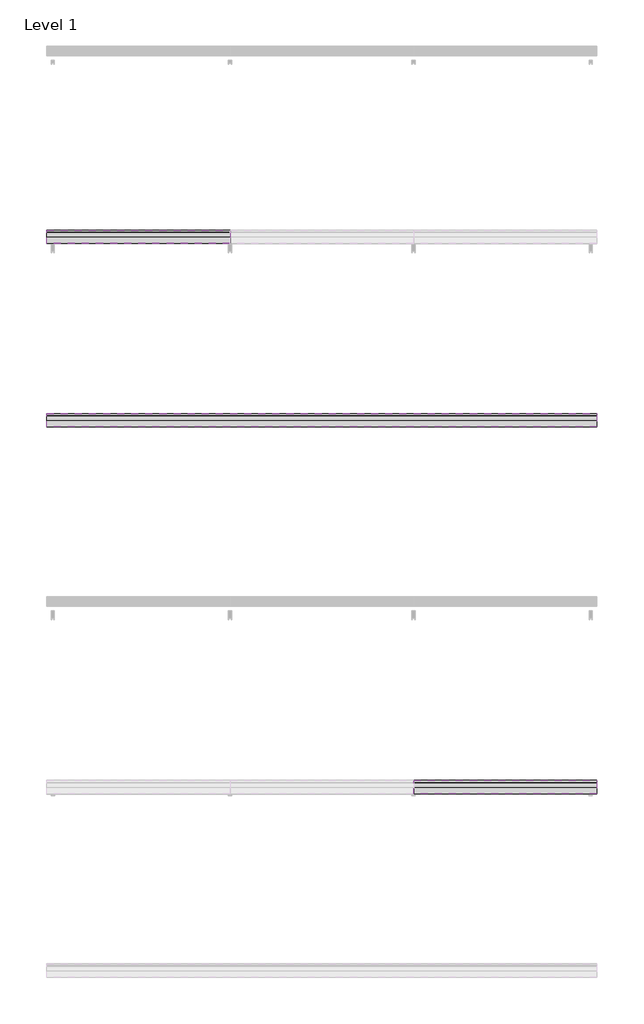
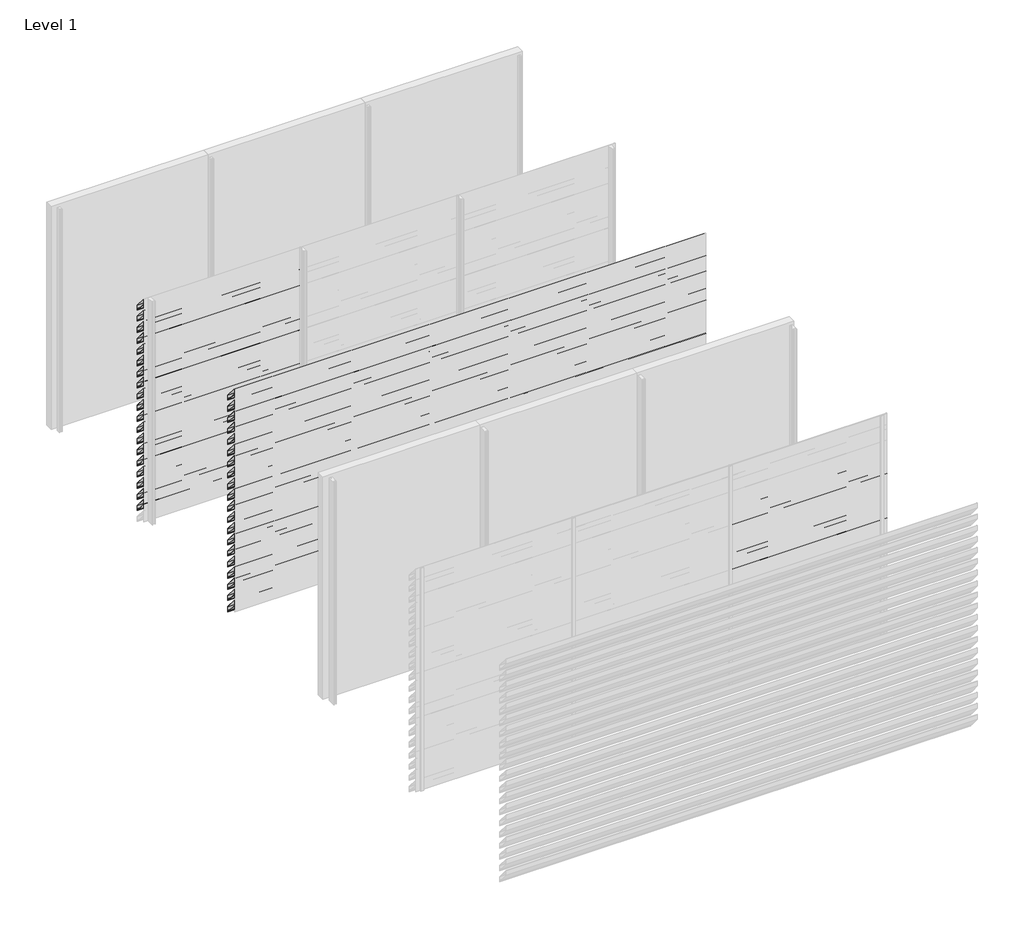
# One storey, part 11 of 16: 56 proxies.
"""IFC4 building model written with IfcOpenShell, lengths in millimetres."""

from ifc_helpers import new_model, si_unit, frame, origin, place, context, project, spatial, polyline, outline, extrude, element, save

model = new_model("IFC4")

# Units and contexts
model_context = context("Model", 3, world=origin())
ifc_project = project(units=[si_unit("LENGTHUNIT", "METRE", prefix="MILLI")], contexts=[model_context])

# Site, building, storey
site = spatial("IfcSite", under=ifc_project)
building = spatial("IfcBuilding", under=site)
storey = spatial("IfcBuildingStorey", under=building, Name="Level 1", Elevation=0.0)

# Proxies
placement = place(None, origin())
element("IfcBuildingElementProxy", 1, Name="Wall Sweeps", at=placement, inside=storey, context=model_context, shape_type="SweptSolid", body=[
    extrude(outline(polyline([(-17851.0, 2830.0), (-17851.0, 2761.0), (-17853.5, 2762.1657691), (-17853.5, 2775.7059843), (-17870.2498671, 2795.6676986), (-17880.9351065, 2795.6676986), (-17998.0, 2935.1802059), (-17998.0, 3000.0), (-17993.6469373, 3000.0), (-17851.0, 2830.0)]), holes=[polyline([(-17996.1, 2998.1), (-17996.1, 2935.8717493), (-17880.049122, 2797.5676986), (-17869.3638825, 2797.5676986), (-17852.9, 2777.9468074), (-17852.9, 2829.3084566), (-17994.5329219, 2998.1), (-17996.1, 2998.1)])]), frame((0.0, 0.0, 0.0), z_axis=(1.0, 0.0, 0.0), x_axis=(0.0, 1.0, 0.0)), (0.0, 0.0, 1.0), 2000.0),
])
element("IfcBuildingElementProxy", 2, Name="Wall Sweeps", at=placement, inside=storey, context=model_context, shape_type="SweptSolid", body=[
    extrude(outline(polyline([(-17851.0, 2680.0), (-17851.0, 2611.0), (-17853.5, 2612.1657691), (-17853.5, 2625.7059843), (-17870.2498671, 2645.6676986), (-17880.9351065, 2645.6676986), (-17998.0, 2785.1802059), (-17998.0, 2850.0), (-17993.6469373, 2850.0), (-17851.0, 2680.0)]), holes=[polyline([(-17996.1, 2848.1), (-17996.1, 2785.8717493), (-17880.049122, 2647.5676986), (-17869.3638825, 2647.5676986), (-17852.9, 2627.9468074), (-17852.9, 2679.3084566), (-17994.5329219, 2848.1), (-17996.1, 2848.1)])]), frame((0.0, 0.0, 0.0), z_axis=(1.0, 0.0, 0.0), x_axis=(0.0, 1.0, 0.0)), (0.0, 0.0, 1.0), 2000.0),
])
element("IfcBuildingElementProxy", 3, Name="Wall Sweeps", at=placement, inside=storey, context=model_context, shape_type="SweptSolid", body=[
    extrude(outline(polyline([(-17851.0, 2530.0), (-17851.0, 2461.0), (-17853.5, 2462.1657691), (-17853.5, 2475.7059843), (-17870.2498671, 2495.6676986), (-17880.9351065, 2495.6676986), (-17998.0, 2635.1802059), (-17998.0, 2700.0), (-17993.6469373, 2700.0), (-17851.0, 2530.0)]), holes=[polyline([(-17996.1, 2698.1), (-17996.1, 2635.8717493), (-17880.049122, 2497.5676986), (-17869.3638825, 2497.5676986), (-17852.9, 2477.9468074), (-17852.9, 2529.3084566), (-17994.5329219, 2698.1), (-17996.1, 2698.1)])]), frame((0.0, 0.0, 0.0), z_axis=(1.0, 0.0, 0.0), x_axis=(0.0, 1.0, 0.0)), (0.0, 0.0, 1.0), 2000.0),
])
element("IfcBuildingElementProxy", 4, Name="Wall Sweeps", at=placement, inside=storey, context=model_context, shape_type="SweptSolid", body=[
    extrude(outline(polyline([(-17851.0, 2380.0), (-17851.0, 2311.0), (-17853.5, 2312.1657691), (-17853.5, 2325.7059843), (-17870.2498671, 2345.6676986), (-17880.9351065, 2345.6676986), (-17998.0, 2485.1802059), (-17998.0, 2550.0), (-17993.6469373, 2550.0), (-17851.0, 2380.0)]), holes=[polyline([(-17996.1, 2548.1), (-17996.1, 2485.8717493), (-17880.049122, 2347.5676986), (-17869.3638825, 2347.5676986), (-17852.9, 2327.9468074), (-17852.9, 2379.3084566), (-17994.5329219, 2548.1), (-17996.1, 2548.1)])]), frame((0.0, 0.0, 0.0), z_axis=(1.0, 0.0, 0.0), x_axis=(0.0, 1.0, 0.0)), (0.0, 0.0, 1.0), 2000.0),
])
element("IfcBuildingElementProxy", 5, Name="Wall Sweeps", at=placement, inside=storey, context=model_context, shape_type="SweptSolid", body=[
    extrude(outline(polyline([(-17851.0, 2230.0), (-17851.0, 2161.0), (-17853.5, 2162.1657691), (-17853.5, 2175.7059843), (-17870.2498671, 2195.6676986), (-17880.9351065, 2195.6676986), (-17998.0, 2335.1802059), (-17998.0, 2400.0), (-17993.6469373, 2400.0), (-17851.0, 2230.0)]), holes=[polyline([(-17996.1, 2398.1), (-17996.1, 2335.8717493), (-17880.049122, 2197.5676986), (-17869.3638825, 2197.5676986), (-17852.9, 2177.9468074), (-17852.9, 2229.3084566), (-17994.5329219, 2398.1), (-17996.1, 2398.1)])]), frame((0.0, 0.0, 0.0), z_axis=(1.0, 0.0, 0.0), x_axis=(0.0, 1.0, 0.0)), (0.0, 0.0, 1.0), 2000.0),
])
element("IfcBuildingElementProxy", 6, Name="Wall Sweeps", at=placement, inside=storey, context=model_context, shape_type="SweptSolid", body=[
    extrude(outline(polyline([(-17851.0, 2080.0), (-17851.0, 2011.0), (-17853.5, 2012.1657691), (-17853.5, 2025.7059843), (-17870.2498671, 2045.6676986), (-17880.9351065, 2045.6676986), (-17998.0, 2185.1802059), (-17998.0, 2250.0), (-17993.6469373, 2250.0), (-17851.0, 2080.0)]), holes=[polyline([(-17996.1, 2248.1), (-17996.1, 2185.8717493), (-17880.049122, 2047.5676986), (-17869.3638825, 2047.5676986), (-17852.9, 2027.9468074), (-17852.9, 2079.3084566), (-17994.5329219, 2248.1), (-17996.1, 2248.1)])]), frame((0.0, 0.0, 0.0), z_axis=(1.0, 0.0, 0.0), x_axis=(0.0, 1.0, 0.0)), (0.0, 0.0, 1.0), 2000.0),
])
element("IfcBuildingElementProxy", 7, Name="Wall Sweeps", at=placement, inside=storey, context=model_context, shape_type="SweptSolid", body=[
    extrude(outline(polyline([(-17851.0, 1930.0), (-17851.0, 1861.0), (-17853.5, 1862.1657691), (-17853.5, 1875.7059843), (-17870.2498671, 1895.6676986), (-17880.9351065, 1895.6676986), (-17998.0, 2035.1802059), (-17998.0, 2100.0), (-17993.6469373, 2100.0), (-17851.0, 1930.0)]), holes=[polyline([(-17996.1, 2098.1), (-17996.1, 2035.8717493), (-17880.049122, 1897.5676986), (-17869.3638825, 1897.5676986), (-17852.9, 1877.9468074), (-17852.9, 1929.3084566), (-17994.5329219, 2098.1), (-17996.1, 2098.1)])]), frame((0.0, 0.0, 0.0), z_axis=(1.0, 0.0, 0.0), x_axis=(0.0, 1.0, 0.0)), (0.0, 0.0, 1.0), 2000.0),
])
element("IfcBuildingElementProxy", 8, Name="Wall Sweeps", at=placement, inside=storey, context=model_context, shape_type="SweptSolid", body=[
    extrude(outline(polyline([(-17851.0, 1780.0), (-17851.0, 1711.0), (-17853.5, 1712.1657691), (-17853.5, 1725.7059843), (-17870.2498671, 1745.6676986), (-17880.9351065, 1745.6676986), (-17998.0, 1885.1802059), (-17998.0, 1950.0), (-17993.6469373, 1950.0), (-17851.0, 1780.0)]), holes=[polyline([(-17996.1, 1948.1), (-17996.1, 1885.8717493), (-17880.049122, 1747.5676986), (-17869.3638825, 1747.5676986), (-17852.9, 1727.9468074), (-17852.9, 1779.3084566), (-17994.5329219, 1948.1), (-17996.1, 1948.1)])]), frame((0.0, 0.0, 0.0), z_axis=(1.0, 0.0, 0.0), x_axis=(0.0, 1.0, 0.0)), (0.0, 0.0, 1.0), 2000.0),
])
element("IfcBuildingElementProxy", 9, Name="Wall Sweeps", at=placement, inside=storey, context=model_context, shape_type="SweptSolid", body=[
    extrude(outline(polyline([(-17851.0, 1630.0), (-17851.0, 1561.0), (-17853.5, 1562.1657691), (-17853.5, 1575.7059843), (-17870.2498671, 1595.6676986), (-17880.9351065, 1595.6676986), (-17998.0, 1735.1802059), (-17998.0, 1800.0), (-17993.6469373, 1800.0), (-17851.0, 1630.0)]), holes=[polyline([(-17996.1, 1798.1), (-17996.1, 1735.8717493), (-17880.049122, 1597.5676986), (-17869.3638825, 1597.5676986), (-17852.9, 1577.9468074), (-17852.9, 1629.3084566), (-17994.5329219, 1798.1), (-17996.1, 1798.1)])]), frame((0.0, 0.0, 0.0), z_axis=(1.0, 0.0, 0.0), x_axis=(0.0, 1.0, 0.0)), (0.0, 0.0, 1.0), 2000.0),
])
element("IfcBuildingElementProxy", 10, Name="Wall Sweeps", at=placement, inside=storey, context=model_context, shape_type="SweptSolid", body=[
    extrude(outline(polyline([(-17851.0, 1480.0), (-17851.0, 1411.0), (-17853.5, 1412.1657691), (-17853.5, 1425.7059843), (-17870.2498671, 1445.6676986), (-17880.9351065, 1445.6676986), (-17998.0, 1585.1802059), (-17998.0, 1650.0), (-17993.6469373, 1650.0), (-17851.0, 1480.0)]), holes=[polyline([(-17996.1, 1648.1), (-17996.1, 1585.8717493), (-17880.049122, 1447.5676986), (-17869.3638825, 1447.5676986), (-17852.9, 1427.9468074), (-17852.9, 1479.3084566), (-17994.5329219, 1648.1), (-17996.1, 1648.1)])]), frame((0.0, 0.0, 0.0), z_axis=(1.0, 0.0, 0.0), x_axis=(0.0, 1.0, 0.0)), (0.0, 0.0, 1.0), 2000.0),
])
element("IfcBuildingElementProxy", 11, Name="Wall Sweeps", at=placement, inside=storey, context=model_context, shape_type="SweptSolid", body=[
    extrude(outline(polyline([(-17851.0, 1330.0), (-17851.0, 1261.0), (-17853.5, 1262.1657691), (-17853.5, 1275.7059843), (-17870.2498671, 1295.6676986), (-17880.9351065, 1295.6676986), (-17998.0, 1435.1802059), (-17998.0, 1500.0), (-17993.6469373, 1500.0), (-17851.0, 1330.0)]), holes=[polyline([(-17996.1, 1498.1), (-17996.1, 1435.8717493), (-17880.049122, 1297.5676986), (-17869.3638825, 1297.5676986), (-17852.9, 1277.9468074), (-17852.9, 1329.3084566), (-17994.5329219, 1498.1), (-17996.1, 1498.1)])]), frame((0.0, 0.0, 0.0), z_axis=(1.0, 0.0, 0.0), x_axis=(0.0, 1.0, 0.0)), (0.0, 0.0, 1.0), 2000.0),
])
element("IfcBuildingElementProxy", 12, Name="Wall Sweeps", at=placement, inside=storey, context=model_context, shape_type="SweptSolid", body=[
    extrude(outline(polyline([(-17851.0, 1180.0), (-17851.0, 1111.0), (-17853.5, 1112.1657691), (-17853.5, 1125.7059843), (-17870.2498671, 1145.6676986), (-17880.9351065, 1145.6676986), (-17998.0, 1285.1802059), (-17998.0, 1350.0), (-17993.6469373, 1350.0), (-17851.0, 1180.0)]), holes=[polyline([(-17996.1, 1348.1), (-17996.1, 1285.8717493), (-17880.049122, 1147.5676986), (-17869.3638825, 1147.5676986), (-17852.9, 1127.9468074), (-17852.9, 1179.3084566), (-17994.5329219, 1348.1), (-17996.1, 1348.1)])]), frame((0.0, 0.0, 0.0), z_axis=(1.0, 0.0, 0.0), x_axis=(0.0, 1.0, 0.0)), (0.0, 0.0, 1.0), 2000.0),
])
element("IfcBuildingElementProxy", 13, Name="Wall Sweeps", at=placement, inside=storey, context=model_context, shape_type="SweptSolid", body=[
    extrude(outline(polyline([(-17851.0, 1030.0), (-17851.0, 961.0), (-17853.5, 962.1657691), (-17853.5, 975.7059843), (-17870.2498671, 995.6676986), (-17880.9351065, 995.6676986), (-17998.0, 1135.1802059), (-17998.0, 1200.0), (-17993.6469373, 1200.0), (-17851.0, 1030.0)]), holes=[polyline([(-17996.1, 1198.1), (-17996.1, 1135.8717493), (-17880.049122, 997.5676986), (-17869.3638825, 997.5676986), (-17852.9, 977.9468074), (-17852.9, 1029.3084566), (-17994.5329219, 1198.1), (-17996.1, 1198.1)])]), frame((0.0, 0.0, 0.0), z_axis=(1.0, 0.0, 0.0), x_axis=(0.0, 1.0, 0.0)), (0.0, 0.0, 1.0), 2000.0),
])
element("IfcBuildingElementProxy", 14, Name="Wall Sweeps", at=placement, inside=storey, context=model_context, shape_type="SweptSolid", body=[
    extrude(outline(polyline([(-17851.0, 880.0), (-17851.0, 811.0), (-17853.5, 812.1657691), (-17853.5, 825.7059843), (-17870.2498671, 845.6676986), (-17880.9351065, 845.6676986), (-17998.0, 985.1802059), (-17998.0, 1050.0), (-17993.6469373, 1050.0), (-17851.0, 880.0)]), holes=[polyline([(-17996.1, 1048.1), (-17996.1, 985.8717493), (-17880.049122, 847.5676986), (-17869.3638825, 847.5676986), (-17852.9, 827.9468074), (-17852.9, 879.3084566), (-17994.5329219, 1048.1), (-17996.1, 1048.1)])]), frame((0.0, 0.0, 0.0), z_axis=(1.0, 0.0, 0.0), x_axis=(0.0, 1.0, 0.0)), (0.0, 0.0, 1.0), 2000.0),
])
element("IfcBuildingElementProxy", 15, Name="Wall Sweeps", at=placement, inside=storey, context=model_context, shape_type="SweptSolid", body=[
    extrude(outline(polyline([(-17851.0, 730.0), (-17851.0, 661.0), (-17853.5, 662.1657691), (-17853.5, 675.7059843), (-17870.2498671, 695.6676986), (-17880.9351065, 695.6676986), (-17998.0, 835.1802059), (-17998.0, 900.0), (-17993.6469373, 900.0), (-17851.0, 730.0)]), holes=[polyline([(-17996.1, 898.1), (-17996.1, 835.8717493), (-17880.049122, 697.5676986), (-17869.3638825, 697.5676986), (-17852.9, 677.9468074), (-17852.9, 729.3084566), (-17994.5329219, 898.1), (-17996.1, 898.1)])]), frame((0.0, 0.0, 0.0), z_axis=(1.0, 0.0, 0.0), x_axis=(0.0, 1.0, 0.0)), (0.0, 0.0, 1.0), 2000.0),
])
element("IfcBuildingElementProxy", 16, Name="Wall Sweeps", at=placement, inside=storey, context=model_context, shape_type="SweptSolid", body=[
    extrude(outline(polyline([(-17851.0, 580.0), (-17851.0, 511.0), (-17853.5, 512.1657691), (-17853.5, 525.7059843), (-17870.2498671, 545.6676986), (-17880.9351065, 545.6676986), (-17998.0, 685.1802059), (-17998.0, 750.0), (-17993.6469373, 750.0), (-17851.0, 580.0)]), holes=[polyline([(-17996.1, 748.1), (-17996.1, 685.8717493), (-17880.049122, 547.5676986), (-17869.3638825, 547.5676986), (-17852.9, 527.9468074), (-17852.9, 579.3084566), (-17994.5329219, 748.1), (-17996.1, 748.1)])]), frame((0.0, 0.0, 0.0), z_axis=(1.0, 0.0, 0.0), x_axis=(0.0, 1.0, 0.0)), (0.0, 0.0, 1.0), 2000.0),
])
element("IfcBuildingElementProxy", 17, Name="Wall Sweeps", at=placement, inside=storey, context=model_context, shape_type="SweptSolid", body=[
    extrude(outline(polyline([(-17851.0, 430.0), (-17851.0, 361.0), (-17853.5, 362.1657691), (-17853.5, 375.7059843), (-17870.2498671, 395.6676986), (-17880.9351065, 395.6676986), (-17998.0, 535.1802059), (-17998.0, 600.0), (-17993.6469373, 600.0), (-17851.0, 430.0)]), holes=[polyline([(-17996.1, 598.1), (-17996.1, 535.8717493), (-17880.049122, 397.5676986), (-17869.3638825, 397.5676986), (-17852.9, 377.9468074), (-17852.9, 429.3084566), (-17994.5329219, 598.1), (-17996.1, 598.1)])]), frame((0.0, 0.0, 0.0), z_axis=(1.0, 0.0, 0.0), x_axis=(0.0, 1.0, 0.0)), (0.0, 0.0, 1.0), 2000.0),
])
element("IfcBuildingElementProxy", 18, Name="Wall Sweeps", at=placement, inside=storey, context=model_context, shape_type="SweptSolid", body=[
    extrude(outline(polyline([(-17851.0, 280.0), (-17851.0, 211.0), (-17853.5, 212.1657691), (-17853.5, 225.7059843), (-17870.2498671, 245.6676986), (-17880.9351065, 245.6676986), (-17998.0, 385.1802059), (-17998.0, 450.0), (-17993.6469373, 450.0), (-17851.0, 280.0)]), holes=[polyline([(-17996.1, 448.1), (-17996.1, 385.8717493), (-17880.049122, 247.5676986), (-17869.3638825, 247.5676986), (-17852.9, 227.9468074), (-17852.9, 279.3084566), (-17994.5329219, 448.1), (-17996.1, 448.1)])]), frame((0.0, 0.0, 0.0), z_axis=(1.0, 0.0, 0.0), x_axis=(0.0, 1.0, 0.0)), (0.0, 0.0, 1.0), 2000.0),
])
element("IfcBuildingElementProxy", 19, Name="Wall Sweeps", at=placement, inside=storey, context=model_context, shape_type="SweptSolid", body=[
    extrude(outline(polyline([(-17851.0, 130.0), (-17851.0, 61.0), (-17853.5, 62.1657691), (-17853.5, 75.7059843), (-17870.2498671, 95.6676986), (-17880.9351065, 95.6676986), (-17998.0, 235.1802059), (-17998.0, 300.0), (-17993.6469373, 300.0), (-17851.0, 130.0)]), holes=[polyline([(-17996.1, 298.1), (-17996.1, 235.8717493), (-17880.049122, 97.5676986), (-17869.3638825, 97.5676986), (-17852.9, 77.9468074), (-17852.9, 129.3084566), (-17994.5329219, 298.1), (-17996.1, 298.1)])]), frame((0.0, 0.0, 0.0), z_axis=(1.0, 0.0, 0.0), x_axis=(0.0, 1.0, 0.0)), (0.0, 0.0, 1.0), 2000.0),
])
element("IfcBuildingElementProxy", 20, Name="Wall Sweeps", at=placement, inside=storey, context=model_context, shape_type="SweptSolid", body=[
    extrude(outline(polyline([(-19851.0, 2830.0), (-19851.0, 2761.0), (-19853.5, 2762.1657691), (-19853.5, 2775.7059843), (-19870.2498671, 2795.6676986), (-19880.9351065, 2795.6676986), (-19998.0, 2935.1802059), (-19998.0, 3000.0), (-19993.6469373, 3000.0), (-19851.0, 2830.0)]), holes=[polyline([(-19996.1, 2998.1), (-19996.1, 2935.8717493), (-19880.049122, 2797.5676986), (-19869.3638825, 2797.5676986), (-19852.9, 2777.9468074), (-19852.9, 2829.3084566), (-19994.5329219, 2998.1), (-19996.1, 2998.1)])]), frame((0.0, 0.0, 0.0), z_axis=(1.0, 0.0, 0.0), x_axis=(0.0, 1.0, 0.0)), (0.0, 0.0, 1.0), 6000.0),
])
element("IfcBuildingElementProxy", 21, Name="Wall Sweeps", at=placement, inside=storey, context=model_context, shape_type="SweptSolid", body=[
    extrude(outline(polyline([(-19851.0, 2680.0), (-19851.0, 2611.0), (-19853.5, 2612.1657691), (-19853.5, 2625.7059843), (-19870.2498671, 2645.6676986), (-19880.9351065, 2645.6676986), (-19998.0, 2785.1802059), (-19998.0, 2850.0), (-19993.6469373, 2850.0), (-19851.0, 2680.0)]), holes=[polyline([(-19996.1, 2848.1), (-19996.1, 2785.8717493), (-19880.049122, 2647.5676986), (-19869.3638825, 2647.5676986), (-19852.9, 2627.9468074), (-19852.9, 2679.3084566), (-19994.5329219, 2848.1), (-19996.1, 2848.1)])]), frame((0.0, 0.0, 0.0), z_axis=(1.0, 0.0, 0.0), x_axis=(0.0, 1.0, 0.0)), (0.0, 0.0, 1.0), 6000.0),
])
element("IfcBuildingElementProxy", 22, Name="Wall Sweeps", at=placement, inside=storey, context=model_context, shape_type="SweptSolid", body=[
    extrude(outline(polyline([(-19851.0, 2530.0), (-19851.0, 2461.0), (-19853.5, 2462.1657691), (-19853.5, 2475.7059843), (-19870.2498671, 2495.6676986), (-19880.9351065, 2495.6676986), (-19998.0, 2635.1802059), (-19998.0, 2700.0), (-19993.6469373, 2700.0), (-19851.0, 2530.0)]), holes=[polyline([(-19996.1, 2698.1), (-19996.1, 2635.8717493), (-19880.049122, 2497.5676986), (-19869.3638825, 2497.5676986), (-19852.9, 2477.9468074), (-19852.9, 2529.3084566), (-19994.5329219, 2698.1), (-19996.1, 2698.1)])]), frame((0.0, 0.0, 0.0), z_axis=(1.0, 0.0, 0.0), x_axis=(0.0, 1.0, 0.0)), (0.0, 0.0, 1.0), 6000.0),
])
element("IfcBuildingElementProxy", 23, Name="Wall Sweeps", at=placement, inside=storey, context=model_context, shape_type="SweptSolid", body=[
    extrude(outline(polyline([(-19851.0, 2380.0), (-19851.0, 2311.0), (-19853.5, 2312.1657691), (-19853.5, 2325.7059843), (-19870.2498671, 2345.6676986), (-19880.9351065, 2345.6676986), (-19998.0, 2485.1802059), (-19998.0, 2550.0), (-19993.6469373, 2550.0), (-19851.0, 2380.0)]), holes=[polyline([(-19996.1, 2548.1), (-19996.1, 2485.8717493), (-19880.049122, 2347.5676986), (-19869.3638825, 2347.5676986), (-19852.9, 2327.9468074), (-19852.9, 2379.3084566), (-19994.5329219, 2548.1), (-19996.1, 2548.1)])]), frame((0.0, 0.0, 0.0), z_axis=(1.0, 0.0, 0.0), x_axis=(0.0, 1.0, 0.0)), (0.0, 0.0, 1.0), 6000.0),
])
element("IfcBuildingElementProxy", 24, Name="Wall Sweeps", at=placement, inside=storey, context=model_context, shape_type="SweptSolid", body=[
    extrude(outline(polyline([(-19851.0, 2230.0), (-19851.0, 2161.0), (-19853.5, 2162.1657691), (-19853.5, 2175.7059843), (-19870.2498671, 2195.6676986), (-19880.9351065, 2195.6676986), (-19998.0, 2335.1802059), (-19998.0, 2400.0), (-19993.6469373, 2400.0), (-19851.0, 2230.0)]), holes=[polyline([(-19996.1, 2398.1), (-19996.1, 2335.8717493), (-19880.049122, 2197.5676986), (-19869.3638825, 2197.5676986), (-19852.9, 2177.9468074), (-19852.9, 2229.3084566), (-19994.5329219, 2398.1), (-19996.1, 2398.1)])]), frame((0.0, 0.0, 0.0), z_axis=(1.0, 0.0, 0.0), x_axis=(0.0, 1.0, 0.0)), (0.0, 0.0, 1.0), 6000.0),
])
element("IfcBuildingElementProxy", 25, Name="Wall Sweeps", at=placement, inside=storey, context=model_context, shape_type="SweptSolid", body=[
    extrude(outline(polyline([(-19851.0, 2080.0), (-19851.0, 2011.0), (-19853.5, 2012.1657691), (-19853.5, 2025.7059843), (-19870.2498671, 2045.6676986), (-19880.9351065, 2045.6676986), (-19998.0, 2185.1802059), (-19998.0, 2250.0), (-19993.6469373, 2250.0), (-19851.0, 2080.0)]), holes=[polyline([(-19996.1, 2248.1), (-19996.1, 2185.8717493), (-19880.049122, 2047.5676986), (-19869.3638825, 2047.5676986), (-19852.9, 2027.9468074), (-19852.9, 2079.3084566), (-19994.5329219, 2248.1), (-19996.1, 2248.1)])]), frame((0.0, 0.0, 0.0), z_axis=(1.0, 0.0, 0.0), x_axis=(0.0, 1.0, 0.0)), (0.0, 0.0, 1.0), 6000.0),
])
element("IfcBuildingElementProxy", 26, Name="Wall Sweeps", at=placement, inside=storey, context=model_context, shape_type="SweptSolid", body=[
    extrude(outline(polyline([(-19851.0, 1930.0), (-19851.0, 1861.0), (-19853.5, 1862.1657691), (-19853.5, 1875.7059843), (-19870.2498671, 1895.6676986), (-19880.9351065, 1895.6676986), (-19998.0, 2035.1802059), (-19998.0, 2100.0), (-19993.6469373, 2100.0), (-19851.0, 1930.0)]), holes=[polyline([(-19996.1, 2098.1), (-19996.1, 2035.8717493), (-19880.049122, 1897.5676986), (-19869.3638825, 1897.5676986), (-19852.9, 1877.9468074), (-19852.9, 1929.3084566), (-19994.5329219, 2098.1), (-19996.1, 2098.1)])]), frame((0.0, 0.0, 0.0), z_axis=(1.0, 0.0, 0.0), x_axis=(0.0, 1.0, 0.0)), (0.0, 0.0, 1.0), 6000.0),
])
element("IfcBuildingElementProxy", 27, Name="Wall Sweeps", at=placement, inside=storey, context=model_context, shape_type="SweptSolid", body=[
    extrude(outline(polyline([(-19851.0, 1780.0), (-19851.0, 1711.0), (-19853.5, 1712.1657691), (-19853.5, 1725.7059843), (-19870.2498671, 1745.6676986), (-19880.9351065, 1745.6676986), (-19998.0, 1885.1802059), (-19998.0, 1950.0), (-19993.6469373, 1950.0), (-19851.0, 1780.0)]), holes=[polyline([(-19996.1, 1948.1), (-19996.1, 1885.8717493), (-19880.049122, 1747.5676986), (-19869.3638825, 1747.5676986), (-19852.9, 1727.9468074), (-19852.9, 1779.3084566), (-19994.5329219, 1948.1), (-19996.1, 1948.1)])]), frame((0.0, 0.0, 0.0), z_axis=(1.0, 0.0, 0.0), x_axis=(0.0, 1.0, 0.0)), (0.0, 0.0, 1.0), 6000.0),
])
element("IfcBuildingElementProxy", 28, Name="Wall Sweeps", at=placement, inside=storey, context=model_context, shape_type="SweptSolid", body=[
    extrude(outline(polyline([(-19851.0, 1630.0), (-19851.0, 1561.0), (-19853.5, 1562.1657691), (-19853.5, 1575.7059843), (-19870.2498671, 1595.6676986), (-19880.9351065, 1595.6676986), (-19998.0, 1735.1802059), (-19998.0, 1800.0), (-19993.6469373, 1800.0), (-19851.0, 1630.0)]), holes=[polyline([(-19996.1, 1798.1), (-19996.1, 1735.8717493), (-19880.049122, 1597.5676986), (-19869.3638825, 1597.5676986), (-19852.9, 1577.9468074), (-19852.9, 1629.3084566), (-19994.5329219, 1798.1), (-19996.1, 1798.1)])]), frame((0.0, 0.0, 0.0), z_axis=(1.0, 0.0, 0.0), x_axis=(0.0, 1.0, 0.0)), (0.0, 0.0, 1.0), 6000.0),
])
element("IfcBuildingElementProxy", 29, Name="Wall Sweeps", at=placement, inside=storey, context=model_context, shape_type="SweptSolid", body=[
    extrude(outline(polyline([(-19851.0, 1480.0), (-19851.0, 1411.0), (-19853.5, 1412.1657691), (-19853.5, 1425.7059843), (-19870.2498671, 1445.6676986), (-19880.9351065, 1445.6676986), (-19998.0, 1585.1802059), (-19998.0, 1650.0), (-19993.6469373, 1650.0), (-19851.0, 1480.0)]), holes=[polyline([(-19996.1, 1648.1), (-19996.1, 1585.8717493), (-19880.049122, 1447.5676986), (-19869.3638825, 1447.5676986), (-19852.9, 1427.9468074), (-19852.9, 1479.3084566), (-19994.5329219, 1648.1), (-19996.1, 1648.1)])]), frame((0.0, 0.0, 0.0), z_axis=(1.0, 0.0, 0.0), x_axis=(0.0, 1.0, 0.0)), (0.0, 0.0, 1.0), 6000.0),
])
element("IfcBuildingElementProxy", 30, Name="Wall Sweeps", at=placement, inside=storey, context=model_context, shape_type="SweptSolid", body=[
    extrude(outline(polyline([(-19851.0, 1330.0), (-19851.0, 1261.0), (-19853.5, 1262.1657691), (-19853.5, 1275.7059843), (-19870.2498671, 1295.6676986), (-19880.9351065, 1295.6676986), (-19998.0, 1435.1802059), (-19998.0, 1500.0), (-19993.6469373, 1500.0), (-19851.0, 1330.0)]), holes=[polyline([(-19996.1, 1498.1), (-19996.1, 1435.8717493), (-19880.049122, 1297.5676986), (-19869.3638825, 1297.5676986), (-19852.9, 1277.9468074), (-19852.9, 1329.3084566), (-19994.5329219, 1498.1), (-19996.1, 1498.1)])]), frame((0.0, 0.0, 0.0), z_axis=(1.0, 0.0, 0.0), x_axis=(0.0, 1.0, 0.0)), (0.0, 0.0, 1.0), 6000.0),
])
element("IfcBuildingElementProxy", 31, Name="Wall Sweeps", at=placement, inside=storey, context=model_context, shape_type="SweptSolid", body=[
    extrude(outline(polyline([(-19851.0, 1180.0), (-19851.0, 1111.0), (-19853.5, 1112.1657691), (-19853.5, 1125.7059843), (-19870.2498671, 1145.6676986), (-19880.9351065, 1145.6676986), (-19998.0, 1285.1802059), (-19998.0, 1350.0), (-19993.6469373, 1350.0), (-19851.0, 1180.0)]), holes=[polyline([(-19996.1, 1348.1), (-19996.1, 1285.8717493), (-19880.049122, 1147.5676986), (-19869.3638825, 1147.5676986), (-19852.9, 1127.9468074), (-19852.9, 1179.3084566), (-19994.5329219, 1348.1), (-19996.1, 1348.1)])]), frame((0.0, 0.0, 0.0), z_axis=(1.0, 0.0, 0.0), x_axis=(0.0, 1.0, 0.0)), (0.0, 0.0, 1.0), 6000.0),
])
element("IfcBuildingElementProxy", 32, Name="Wall Sweeps", at=placement, inside=storey, context=model_context, shape_type="SweptSolid", body=[
    extrude(outline(polyline([(-19851.0, 1030.0), (-19851.0, 961.0), (-19853.5, 962.1657691), (-19853.5, 975.7059843), (-19870.2498671, 995.6676986), (-19880.9351065, 995.6676986), (-19998.0, 1135.1802059), (-19998.0, 1200.0), (-19993.6469373, 1200.0), (-19851.0, 1030.0)]), holes=[polyline([(-19996.1, 1198.1), (-19996.1, 1135.8717493), (-19880.049122, 997.5676986), (-19869.3638825, 997.5676986), (-19852.9, 977.9468074), (-19852.9, 1029.3084566), (-19994.5329219, 1198.1), (-19996.1, 1198.1)])]), frame((0.0, 0.0, 0.0), z_axis=(1.0, 0.0, 0.0), x_axis=(0.0, 1.0, 0.0)), (0.0, 0.0, 1.0), 6000.0),
])
element("IfcBuildingElementProxy", 33, Name="Wall Sweeps", at=placement, inside=storey, context=model_context, shape_type="SweptSolid", body=[
    extrude(outline(polyline([(-19851.0, 880.0), (-19851.0, 811.0), (-19853.5, 812.1657691), (-19853.5, 825.7059843), (-19870.2498671, 845.6676986), (-19880.9351065, 845.6676986), (-19998.0, 985.1802059), (-19998.0, 1050.0), (-19993.6469373, 1050.0), (-19851.0, 880.0)]), holes=[polyline([(-19996.1, 1048.1), (-19996.1, 985.8717493), (-19880.049122, 847.5676986), (-19869.3638825, 847.5676986), (-19852.9, 827.9468074), (-19852.9, 879.3084566), (-19994.5329219, 1048.1), (-19996.1, 1048.1)])]), frame((0.0, 0.0, 0.0), z_axis=(1.0, 0.0, 0.0), x_axis=(0.0, 1.0, 0.0)), (0.0, 0.0, 1.0), 6000.0),
])
element("IfcBuildingElementProxy", 34, Name="Wall Sweeps", at=placement, inside=storey, context=model_context, shape_type="SweptSolid", body=[
    extrude(outline(polyline([(-19851.0, 730.0), (-19851.0, 661.0), (-19853.5, 662.1657691), (-19853.5, 675.7059843), (-19870.2498671, 695.6676986), (-19880.9351065, 695.6676986), (-19998.0, 835.1802059), (-19998.0, 900.0), (-19993.6469373, 900.0), (-19851.0, 730.0)]), holes=[polyline([(-19996.1, 898.1), (-19996.1, 835.8717493), (-19880.049122, 697.5676986), (-19869.3638825, 697.5676986), (-19852.9, 677.9468074), (-19852.9, 729.3084566), (-19994.5329219, 898.1), (-19996.1, 898.1)])]), frame((0.0, 0.0, 0.0), z_axis=(1.0, 0.0, 0.0), x_axis=(0.0, 1.0, 0.0)), (0.0, 0.0, 1.0), 6000.0),
])
element("IfcBuildingElementProxy", 35, Name="Wall Sweeps", at=placement, inside=storey, context=model_context, shape_type="SweptSolid", body=[
    extrude(outline(polyline([(-19851.0, 580.0), (-19851.0, 511.0), (-19853.5, 512.1657691), (-19853.5, 525.7059843), (-19870.2498671, 545.6676986), (-19880.9351065, 545.6676986), (-19998.0, 685.1802059), (-19998.0, 750.0), (-19993.6469373, 750.0), (-19851.0, 580.0)]), holes=[polyline([(-19996.1, 748.1), (-19996.1, 685.8717493), (-19880.049122, 547.5676986), (-19869.3638825, 547.5676986), (-19852.9, 527.9468074), (-19852.9, 579.3084566), (-19994.5329219, 748.1), (-19996.1, 748.1)])]), frame((0.0, 0.0, 0.0), z_axis=(1.0, 0.0, 0.0), x_axis=(0.0, 1.0, 0.0)), (0.0, 0.0, 1.0), 6000.0),
])
element("IfcBuildingElementProxy", 36, Name="Wall Sweeps", at=placement, inside=storey, context=model_context, shape_type="SweptSolid", body=[
    extrude(outline(polyline([(-19851.0, 430.0), (-19851.0, 361.0), (-19853.5, 362.1657691), (-19853.5, 375.7059843), (-19870.2498671, 395.6676986), (-19880.9351065, 395.6676986), (-19998.0, 535.1802059), (-19998.0, 600.0), (-19993.6469373, 600.0), (-19851.0, 430.0)]), holes=[polyline([(-19996.1, 598.1), (-19996.1, 535.8717493), (-19880.049122, 397.5676986), (-19869.3638825, 397.5676986), (-19852.9, 377.9468074), (-19852.9, 429.3084566), (-19994.5329219, 598.1), (-19996.1, 598.1)])]), frame((0.0, 0.0, 0.0), z_axis=(1.0, 0.0, 0.0), x_axis=(0.0, 1.0, 0.0)), (0.0, 0.0, 1.0), 6000.0),
])
element("IfcBuildingElementProxy", 37, Name="Wall Sweeps", at=placement, inside=storey, context=model_context, shape_type="SweptSolid", body=[
    extrude(outline(polyline([(-19851.0, 280.0), (-19851.0, 211.0), (-19853.5, 212.1657691), (-19853.5, 225.7059843), (-19870.2498671, 245.6676986), (-19880.9351065, 245.6676986), (-19998.0, 385.1802059), (-19998.0, 450.0), (-19993.6469373, 450.0), (-19851.0, 280.0)]), holes=[polyline([(-19996.1, 448.1), (-19996.1, 385.8717493), (-19880.049122, 247.5676986), (-19869.3638825, 247.5676986), (-19852.9, 227.9468074), (-19852.9, 279.3084566), (-19994.5329219, 448.1), (-19996.1, 448.1)])]), frame((0.0, 0.0, 0.0), z_axis=(1.0, 0.0, 0.0), x_axis=(0.0, 1.0, 0.0)), (0.0, 0.0, 1.0), 6000.0),
])
element("IfcBuildingElementProxy", 38, Name="Wall Sweeps", at=placement, inside=storey, context=model_context, shape_type="SweptSolid", body=[
    extrude(outline(polyline([(-19851.0, 130.0), (-19851.0, 61.0), (-19853.5, 62.1657691), (-19853.5, 75.7059843), (-19870.2498671, 95.6676986), (-19880.9351065, 95.6676986), (-19998.0, 235.1802059), (-19998.0, 300.0), (-19993.6469373, 300.0), (-19851.0, 130.0)]), holes=[polyline([(-19996.1, 298.1), (-19996.1, 235.8717493), (-19880.049122, 97.5676986), (-19869.3638825, 97.5676986), (-19852.9, 77.9468074), (-19852.9, 129.3084566), (-19994.5329219, 298.1), (-19996.1, 298.1)])]), frame((0.0, 0.0, 0.0), z_axis=(1.0, 0.0, 0.0), x_axis=(0.0, 1.0, 0.0)), (0.0, 0.0, 1.0), 6000.0),
])
element("IfcBuildingElementProxy", 39, Name="Wall Sweeps", at=placement, inside=storey, context=model_context, shape_type="SweptSolid", body=[
    extrude(outline(polyline([(-19851.0, -20.0), (-19851.0, -89.0), (-19853.5, -87.8342309), (-19853.5, -74.2940157), (-19870.2498671, -54.3323014), (-19880.9351065, -54.3323014), (-19998.0, 85.1802059), (-19998.0, 150.0), (-19993.6469373, 150.0), (-19851.0, -20.0)]), holes=[polyline([(-19996.1, 148.1), (-19996.1, 85.8717493), (-19880.049122, -52.4323014), (-19869.3638825, -52.4323014), (-19852.9, -72.0531926), (-19852.9, -20.6915434), (-19994.5329219, 148.1), (-19996.1, 148.1)])]), frame((0.0, 0.0, 0.0), z_axis=(1.0, 0.0, 0.0), x_axis=(0.0, 1.0, 0.0)), (0.0, 0.0, 1.0), 6000.0),
])
element("IfcBuildingElementProxy", 40, Name="Wall Sweeps", at=placement, inside=storey, context=model_context, shape_type="SweptSolid", body=[
    extrude(outline(polyline([(-23851.0, 2380.0), (-23851.0, 2311.0), (-23853.5, 2312.1657691), (-23853.5, 2325.7059843), (-23870.2498671, 2345.6676986), (-23880.9351065, 2345.6676986), (-23998.0, 2485.1802059), (-23998.0, 2550.0), (-23993.6469373, 2550.0), (-23851.0, 2380.0)]), holes=[polyline([(-23996.1, 2548.1), (-23996.1, 2485.8717493), (-23880.049122, 2347.5676986), (-23869.3638825, 2347.5676986), (-23852.9, 2327.9468074), (-23852.9, 2379.3084566), (-23994.5329219, 2548.1), (-23996.1, 2548.1)])]), frame((4000.0, 0.0, 0.0), z_axis=(1.0, 0.0, 0.0), x_axis=(0.0, 1.0, 0.0)), (0.0, 0.0, 1.0), 2000.0),
])
element("IfcBuildingElementProxy", 41, Name="Wall Sweeps", at=placement, inside=storey, context=model_context, shape_type="SweptSolid", body=[
    extrude(outline(polyline([(-23851.0, 2230.0), (-23851.0, 2161.0), (-23853.5, 2162.1657691), (-23853.5, 2175.7059843), (-23870.2498671, 2195.6676986), (-23880.9351065, 2195.6676986), (-23998.0, 2335.1802059), (-23998.0, 2400.0), (-23993.6469373, 2400.0), (-23851.0, 2230.0)]), holes=[polyline([(-23996.1, 2398.1), (-23996.1, 2335.8717493), (-23880.049122, 2197.5676986), (-23869.3638825, 2197.5676986), (-23852.9, 2177.9468074), (-23852.9, 2229.3084566), (-23994.5329219, 2398.1), (-23996.1, 2398.1)])]), frame((4000.0, 0.0, 0.0), z_axis=(1.0, 0.0, 0.0), x_axis=(0.0, 1.0, 0.0)), (0.0, 0.0, 1.0), 2000.0),
])
element("IfcBuildingElementProxy", 42, Name="Wall Sweeps", at=placement, inside=storey, context=model_context, shape_type="SweptSolid", body=[
    extrude(outline(polyline([(-23851.0, 2080.0), (-23851.0, 2011.0), (-23853.5, 2012.1657691), (-23853.5, 2025.7059843), (-23870.2498671, 2045.6676986), (-23880.9351065, 2045.6676986), (-23998.0, 2185.1802059), (-23998.0, 2250.0), (-23993.6469373, 2250.0), (-23851.0, 2080.0)]), holes=[polyline([(-23996.1, 2248.1), (-23996.1, 2185.8717493), (-23880.049122, 2047.5676986), (-23869.3638825, 2047.5676986), (-23852.9, 2027.9468074), (-23852.9, 2079.3084566), (-23994.5329219, 2248.1), (-23996.1, 2248.1)])]), frame((4000.0, 0.0, 0.0), z_axis=(1.0, 0.0, 0.0), x_axis=(0.0, 1.0, 0.0)), (0.0, 0.0, 1.0), 2000.0),
])
element("IfcBuildingElementProxy", 43, Name="Wall Sweeps", at=placement, inside=storey, context=model_context, shape_type="SweptSolid", body=[
    extrude(outline(polyline([(-23851.0, 1930.0), (-23851.0, 1861.0), (-23853.5, 1862.1657691), (-23853.5, 1875.7059843), (-23870.2498671, 1895.6676986), (-23880.9351065, 1895.6676986), (-23998.0, 2035.1802059), (-23998.0, 2100.0), (-23993.6469373, 2100.0), (-23851.0, 1930.0)]), holes=[polyline([(-23996.1, 2098.1), (-23996.1, 2035.8717493), (-23880.049122, 1897.5676986), (-23869.3638825, 1897.5676986), (-23852.9, 1877.9468074), (-23852.9, 1929.3084566), (-23994.5329219, 2098.1), (-23996.1, 2098.1)])]), frame((4000.0, 0.0, 0.0), z_axis=(1.0, 0.0, 0.0), x_axis=(0.0, 1.0, 0.0)), (0.0, 0.0, 1.0), 2000.0),
])
element("IfcBuildingElementProxy", 44, Name="Wall Sweeps", at=placement, inside=storey, context=model_context, shape_type="SweptSolid", body=[
    extrude(outline(polyline([(-23851.0, 1780.0), (-23851.0, 1711.0), (-23853.5, 1712.1657691), (-23853.5, 1725.7059843), (-23870.2498671, 1745.6676986), (-23880.9351065, 1745.6676986), (-23998.0, 1885.1802059), (-23998.0, 1950.0), (-23993.6469373, 1950.0), (-23851.0, 1780.0)]), holes=[polyline([(-23996.1, 1948.1), (-23996.1, 1885.8717493), (-23880.049122, 1747.5676986), (-23869.3638825, 1747.5676986), (-23852.9, 1727.9468074), (-23852.9, 1779.3084566), (-23994.5329219, 1948.1), (-23996.1, 1948.1)])]), frame((4000.0, 0.0, 0.0), z_axis=(1.0, 0.0, 0.0), x_axis=(0.0, 1.0, 0.0)), (0.0, 0.0, 1.0), 2000.0),
])
element("IfcBuildingElementProxy", 45, Name="Wall Sweeps", at=placement, inside=storey, context=model_context, shape_type="SweptSolid", body=[
    extrude(outline(polyline([(-23851.0, 1630.0), (-23851.0, 1561.0), (-23853.5, 1562.1657691), (-23853.5, 1575.7059843), (-23870.2498671, 1595.6676986), (-23880.9351065, 1595.6676986), (-23998.0, 1735.1802059), (-23998.0, 1800.0), (-23993.6469373, 1800.0), (-23851.0, 1630.0)]), holes=[polyline([(-23996.1, 1798.1), (-23996.1, 1735.8717493), (-23880.049122, 1597.5676986), (-23869.3638825, 1597.5676986), (-23852.9, 1577.9468074), (-23852.9, 1629.3084566), (-23994.5329219, 1798.1), (-23996.1, 1798.1)])]), frame((4000.0, 0.0, 0.0), z_axis=(1.0, 0.0, 0.0), x_axis=(0.0, 1.0, 0.0)), (0.0, 0.0, 1.0), 2000.0),
])
element("IfcBuildingElementProxy", 46, Name="Wall Sweeps", at=placement, inside=storey, context=model_context, shape_type="SweptSolid", body=[
    extrude(outline(polyline([(-23851.0, 1480.0), (-23851.0, 1411.0), (-23853.5, 1412.1657691), (-23853.5, 1425.7059843), (-23870.2498671, 1445.6676986), (-23880.9351065, 1445.6676986), (-23998.0, 1585.1802059), (-23998.0, 1650.0), (-23993.6469373, 1650.0), (-23851.0, 1480.0)]), holes=[polyline([(-23996.1, 1648.1), (-23996.1, 1585.8717493), (-23880.049122, 1447.5676986), (-23869.3638825, 1447.5676986), (-23852.9, 1427.9468074), (-23852.9, 1479.3084566), (-23994.5329219, 1648.1), (-23996.1, 1648.1)])]), frame((4000.0, 0.0, 0.0), z_axis=(1.0, 0.0, 0.0), x_axis=(0.0, 1.0, 0.0)), (0.0, 0.0, 1.0), 2000.0),
])
element("IfcBuildingElementProxy", 47, Name="Wall Sweeps", at=placement, inside=storey, context=model_context, shape_type="SweptSolid", body=[
    extrude(outline(polyline([(-23851.0, 1330.0), (-23851.0, 1261.0), (-23853.5, 1262.1657691), (-23853.5, 1275.7059843), (-23870.2498671, 1295.6676986), (-23880.9351065, 1295.6676986), (-23998.0, 1435.1802059), (-23998.0, 1500.0), (-23993.6469373, 1500.0), (-23851.0, 1330.0)]), holes=[polyline([(-23996.1, 1498.1), (-23996.1, 1435.8717493), (-23880.049122, 1297.5676986), (-23869.3638825, 1297.5676986), (-23852.9, 1277.9468074), (-23852.9, 1329.3084566), (-23994.5329219, 1498.1), (-23996.1, 1498.1)])]), frame((4000.0, 0.0, 0.0), z_axis=(1.0, 0.0, 0.0), x_axis=(0.0, 1.0, 0.0)), (0.0, 0.0, 1.0), 2000.0),
])
element("IfcBuildingElementProxy", 48, Name="Wall Sweeps", at=placement, inside=storey, context=model_context, shape_type="SweptSolid", body=[
    extrude(outline(polyline([(-23851.0, 1180.0), (-23851.0, 1111.0), (-23853.5, 1112.1657691), (-23853.5, 1125.7059843), (-23870.2498671, 1145.6676986), (-23880.9351065, 1145.6676986), (-23998.0, 1285.1802059), (-23998.0, 1350.0), (-23993.6469373, 1350.0), (-23851.0, 1180.0)]), holes=[polyline([(-23996.1, 1348.1), (-23996.1, 1285.8717493), (-23880.049122, 1147.5676986), (-23869.3638825, 1147.5676986), (-23852.9, 1127.9468074), (-23852.9, 1179.3084566), (-23994.5329219, 1348.1), (-23996.1, 1348.1)])]), frame((4000.0, 0.0, 0.0), z_axis=(1.0, 0.0, 0.0), x_axis=(0.0, 1.0, 0.0)), (0.0, 0.0, 1.0), 2000.0),
])
element("IfcBuildingElementProxy", 49, Name="Wall Sweeps", at=placement, inside=storey, context=model_context, shape_type="SweptSolid", body=[
    extrude(outline(polyline([(-23851.0, 1030.0), (-23851.0, 961.0), (-23853.5, 962.1657691), (-23853.5, 975.7059843), (-23870.2498671, 995.6676986), (-23880.9351065, 995.6676986), (-23998.0, 1135.1802059), (-23998.0, 1200.0), (-23993.6469373, 1200.0), (-23851.0, 1030.0)]), holes=[polyline([(-23996.1, 1198.1), (-23996.1, 1135.8717493), (-23880.049122, 997.5676986), (-23869.3638825, 997.5676986), (-23852.9, 977.9468074), (-23852.9, 1029.3084566), (-23994.5329219, 1198.1), (-23996.1, 1198.1)])]), frame((4000.0, 0.0, 0.0), z_axis=(1.0, 0.0, 0.0), x_axis=(0.0, 1.0, 0.0)), (0.0, 0.0, 1.0), 2000.0),
])
element("IfcBuildingElementProxy", 50, Name="Wall Sweeps", at=placement, inside=storey, context=model_context, shape_type="SweptSolid", body=[
    extrude(outline(polyline([(-23851.0, 880.0), (-23851.0, 811.0), (-23853.5, 812.1657691), (-23853.5, 825.7059843), (-23870.2498671, 845.6676986), (-23880.9351065, 845.6676986), (-23998.0, 985.1802059), (-23998.0, 1050.0), (-23993.6469373, 1050.0), (-23851.0, 880.0)]), holes=[polyline([(-23996.1, 1048.1), (-23996.1, 985.8717493), (-23880.049122, 847.5676986), (-23869.3638825, 847.5676986), (-23852.9, 827.9468074), (-23852.9, 879.3084566), (-23994.5329219, 1048.1), (-23996.1, 1048.1)])]), frame((4000.0, 0.0, 0.0), z_axis=(1.0, 0.0, 0.0), x_axis=(0.0, 1.0, 0.0)), (0.0, 0.0, 1.0), 2000.0),
])
element("IfcBuildingElementProxy", 51, Name="Wall Sweeps", at=placement, inside=storey, context=model_context, shape_type="SweptSolid", body=[
    extrude(outline(polyline([(-23851.0, 730.0), (-23851.0, 661.0), (-23853.5, 662.1657691), (-23853.5, 675.7059843), (-23870.2498671, 695.6676986), (-23880.9351065, 695.6676986), (-23998.0, 835.1802059), (-23998.0, 900.0), (-23993.6469373, 900.0), (-23851.0, 730.0)]), holes=[polyline([(-23996.1, 898.1), (-23996.1, 835.8717493), (-23880.049122, 697.5676986), (-23869.3638825, 697.5676986), (-23852.9, 677.9468074), (-23852.9, 729.3084566), (-23994.5329219, 898.1), (-23996.1, 898.1)])]), frame((4000.0, 0.0, 0.0), z_axis=(1.0, 0.0, 0.0), x_axis=(0.0, 1.0, 0.0)), (0.0, 0.0, 1.0), 2000.0),
])
element("IfcBuildingElementProxy", 52, Name="Wall Sweeps", at=placement, inside=storey, context=model_context, shape_type="SweptSolid", body=[
    extrude(outline(polyline([(-23851.0, 580.0), (-23851.0, 511.0), (-23853.5, 512.1657691), (-23853.5, 525.7059843), (-23870.2498671, 545.6676986), (-23880.9351065, 545.6676986), (-23998.0, 685.1802059), (-23998.0, 750.0), (-23993.6469373, 750.0), (-23851.0, 580.0)]), holes=[polyline([(-23996.1, 748.1), (-23996.1, 685.8717493), (-23880.049122, 547.5676986), (-23869.3638825, 547.5676986), (-23852.9, 527.9468074), (-23852.9, 579.3084566), (-23994.5329219, 748.1), (-23996.1, 748.1)])]), frame((4000.0, 0.0, 0.0), z_axis=(1.0, 0.0, 0.0), x_axis=(0.0, 1.0, 0.0)), (0.0, 0.0, 1.0), 2000.0),
])
element("IfcBuildingElementProxy", 53, Name="Wall Sweeps", at=placement, inside=storey, context=model_context, shape_type="SweptSolid", body=[
    extrude(outline(polyline([(-23851.0, 430.0), (-23851.0, 361.0), (-23853.5, 362.1657691), (-23853.5, 375.7059843), (-23870.2498671, 395.6676986), (-23880.9351065, 395.6676986), (-23998.0, 535.1802059), (-23998.0, 600.0), (-23993.6469373, 600.0), (-23851.0, 430.0)]), holes=[polyline([(-23996.1, 598.1), (-23996.1, 535.8717493), (-23880.049122, 397.5676986), (-23869.3638825, 397.5676986), (-23852.9, 377.9468074), (-23852.9, 429.3084566), (-23994.5329219, 598.1), (-23996.1, 598.1)])]), frame((4000.0, 0.0, 0.0), z_axis=(1.0, 0.0, 0.0), x_axis=(0.0, 1.0, 0.0)), (0.0, 0.0, 1.0), 2000.0),
])
element("IfcBuildingElementProxy", 54, Name="Wall Sweeps", at=placement, inside=storey, context=model_context, shape_type="SweptSolid", body=[
    extrude(outline(polyline([(-23851.0, 280.0), (-23851.0, 211.0), (-23853.5, 212.1657691), (-23853.5, 225.7059843), (-23870.2498671, 245.6676986), (-23880.9351065, 245.6676986), (-23998.0, 385.1802059), (-23998.0, 450.0), (-23993.6469373, 450.0), (-23851.0, 280.0)]), holes=[polyline([(-23996.1, 448.1), (-23996.1, 385.8717493), (-23880.049122, 247.5676986), (-23869.3638825, 247.5676986), (-23852.9, 227.9468074), (-23852.9, 279.3084566), (-23994.5329219, 448.1), (-23996.1, 448.1)])]), frame((4000.0, 0.0, 0.0), z_axis=(1.0, 0.0, 0.0), x_axis=(0.0, 1.0, 0.0)), (0.0, 0.0, 1.0), 2000.0),
])
element("IfcBuildingElementProxy", 55, Name="Wall Sweeps", at=placement, inside=storey, context=model_context, shape_type="SweptSolid", body=[
    extrude(outline(polyline([(-23851.0, 130.0), (-23851.0, 61.0), (-23853.5, 62.1657691), (-23853.5, 75.7059843), (-23870.2498671, 95.6676986), (-23880.9351065, 95.6676986), (-23998.0, 235.1802059), (-23998.0, 300.0), (-23993.6469373, 300.0), (-23851.0, 130.0)]), holes=[polyline([(-23996.1, 298.1), (-23996.1, 235.8717493), (-23880.049122, 97.5676986), (-23869.3638825, 97.5676986), (-23852.9, 77.9468074), (-23852.9, 129.3084566), (-23994.5329219, 298.1), (-23996.1, 298.1)])]), frame((4000.0, 0.0, 0.0), z_axis=(1.0, 0.0, 0.0), x_axis=(0.0, 1.0, 0.0)), (0.0, 0.0, 1.0), 2000.0),
])
element("IfcBuildingElementProxy", 56, Name="Wall Sweeps", at=placement, inside=storey, context=model_context, shape_type="SweptSolid", body=[
    extrude(outline(polyline([(-23851.0, -20.0), (-23851.0, -89.0), (-23853.5, -87.8342309), (-23853.5, -74.2940157), (-23870.2498671, -54.3323014), (-23880.9351065, -54.3323014), (-23998.0, 85.1802059), (-23998.0, 150.0), (-23993.6469373, 150.0), (-23851.0, -20.0)]), holes=[polyline([(-23996.1, 148.1), (-23996.1, 85.8717493), (-23880.049122, -52.4323014), (-23869.3638825, -52.4323014), (-23852.9, -72.0531926), (-23852.9, -20.6915434), (-23994.5329219, 148.1), (-23996.1, 148.1)])]), frame((4000.0, 0.0, 0.0), z_axis=(1.0, 0.0, 0.0), x_axis=(0.0, 1.0, 0.0)), (0.0, 0.0, 1.0), 2000.0),
])

save(model, "model.ifc")
